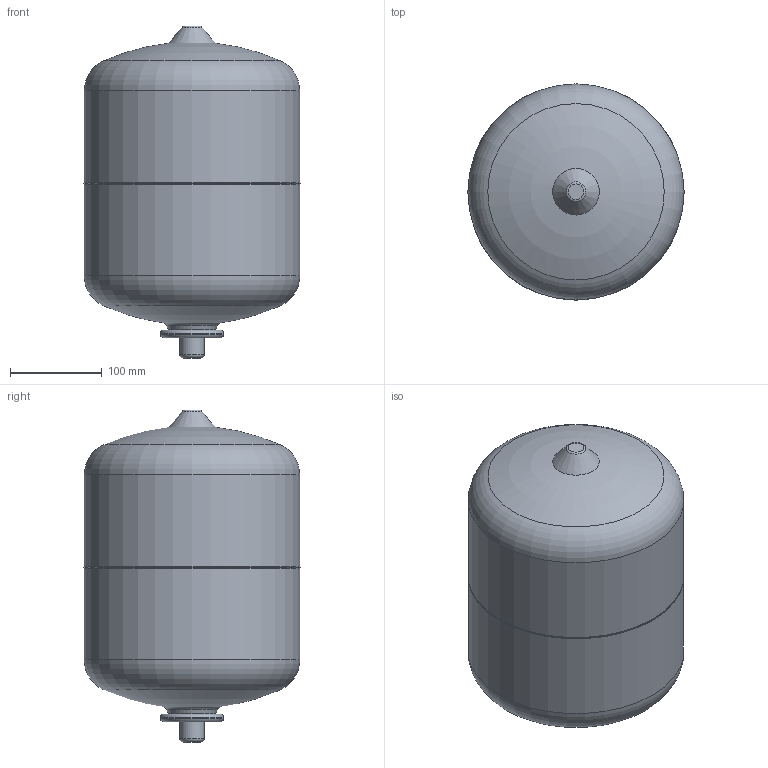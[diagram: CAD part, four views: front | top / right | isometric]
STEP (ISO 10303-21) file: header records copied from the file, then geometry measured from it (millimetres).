
FILE_DESCRIPTION(('STEP AP203'), '1');
FILE_NAME('306518.002-VT.A.R.050012', '2024-08-19T12:13:35', ('IT'), ('VESTA'), 'C3D Converter', 'C3D Toolkit', '');
FILE_SCHEMA(('CONFIG_CONTROL_DESIGN'));
Length unit declared in the file: millimetre
Bounding box: 235.7 x 235.7 x 361.78 mm (x, y, z)
Volume: 11969259.6 mm3; surface area: 276397.3 mm2
Topology: 1 solids, 1 shells, 35 faces, 97 edges, 68 vertices
Faces by surface type: torus 18, cylinder 8, plane 6, cone 3
Full cylindrical faces by diameter (mm): 16 x1, 21.5 x1, 26.441 x1, 55.9 x1, 69 x1, 234.9 x2, 235.7 x1
Entity records: 1065 total; most frequent: DIRECTION 208, CARTESIAN_POINT 172, ORIENTED_EDGE 136, AXIS2_PLACEMENT_3D 104, FACE_BOUND 68, EDGE_LOOP 68, EDGE_CURVE 68, VERTEX_POINT 68
